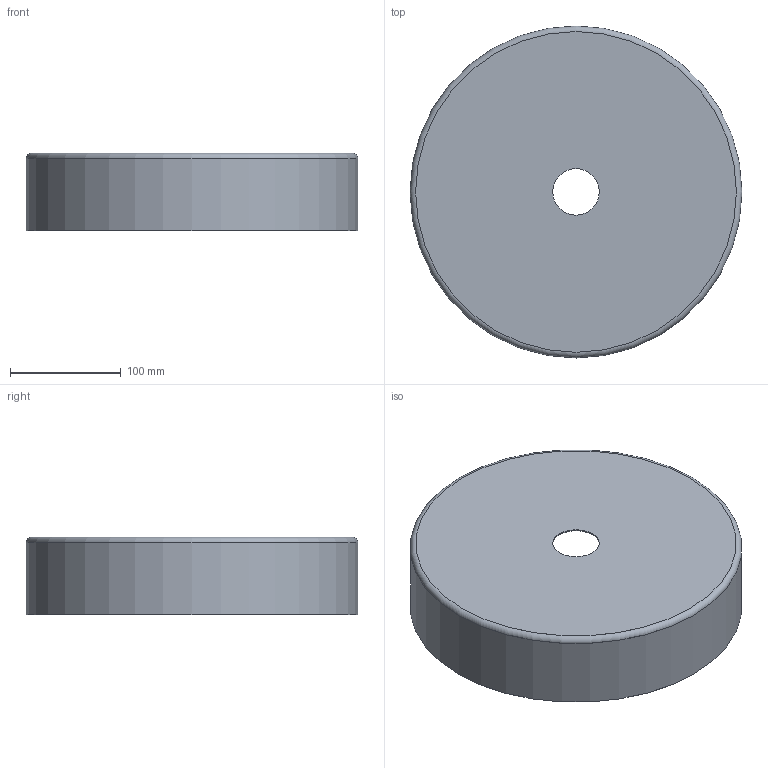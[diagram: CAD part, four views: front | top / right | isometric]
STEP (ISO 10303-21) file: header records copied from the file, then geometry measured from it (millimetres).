
FILE_DESCRIPTION (( 'STEP AP214' ), '1' );
FILE_NAME ('JARVIS-1CAM370841.STEP', '2026-01-14T08:07:14', ( '' ), ( '' ), 'SwSTEP 2.0', 'SolidWorks 2025', '' );
FILE_SCHEMA (( 'AUTOMOTIVE_DESIGN' ));
Length unit declared in the file: millimetre
Products named in the file (1): JARVIS-1CAM370841
Bounding box: 300 x 300 x 70 mm (x, y, z)
Volume: 132291.1 mm3; surface area: 265655.5 mm2
Topology: 1 solids, 1 shells, 8 faces, 15 edges, 10 vertices
Faces by surface type: plane 3, cylinder 3, torus 2
Full cylindrical faces by diameter (mm): 42 x1, 298 x1, 300 x1
Entity records: 191 total; most frequent: DIRECTION 34, CARTESIAN_POINT 25, AXIS2_PLACEMENT_3D 17, EDGE_LOOP 16, ORIENTED_EDGE 16, FACE_OUTER_BOUND 13, CIRCLE 8, VERTEX_POINT 8
